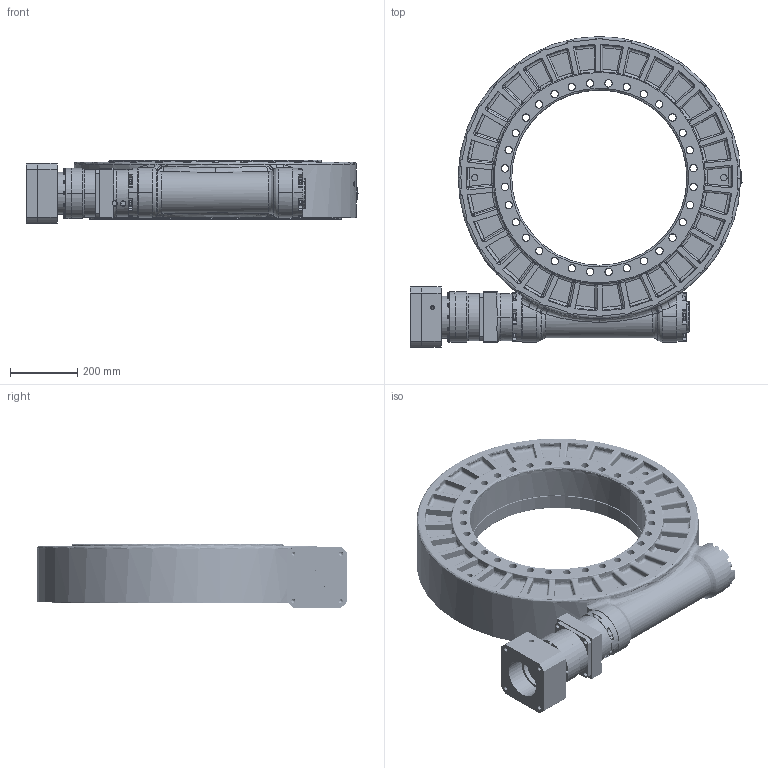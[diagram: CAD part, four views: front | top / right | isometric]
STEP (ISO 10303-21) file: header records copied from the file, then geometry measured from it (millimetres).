
FILE_DESCRIPTION (( 'STEP AP214' ), '1' );
FILE_NAME ('415hp-WVRB140.STEP', '2022-05-18T02:54:34', ( 'Windows User' ), ( 'P R C' ), 'SwSTEP 2.0', 'SolidWorks 2020', '' );
FILE_SCHEMA (( 'AUTOMOTIVE_DESIGN' ));
Length unit declared in the file: millimetre
Products named in the file (19): 蚐噩M30; HC650HP01-01眊极; 蚐黑ZG3%8_2; HC650HP-02-01蟀极芧謫; 囀鞠褒M12X45; HC650HP-02-02偏心盖_1; HC650HP-02-04萇儂釱; WVRB140-L1-114.3-200-M12-42-116-LJB; HC650HP01-04囀揤裔; 670X620X25; 囀鞠褒M10X60; 68X50X12; HC650HP-02-05蟀粣杶; 33210; 800X750X25; HC650HP01-02-60怀堤粣; 415hp-WVRB140; HC650HP-02-03蹟恇裔; 囀鞠褒M10X30
Assembly tree (57 placements, depth 2):
  415hp-WVRB140
    HC650HP01-02-60怀堤粣
    HC650HP01-01眊极
    HC650HP01-04囀揤裔
    HC650HP-02-02偏心盖_1  x2
    HC650HP-02-01蟀极芧謫
    33210  x2
    HC650HP-02-03蹟恇裔  x2
    HC650HP-02-04萇儂釱
    800X750X25
    670X620X25
    68X50X12  x2
    囀鞠褒M12X45  x16
    囀鞠褒M10X30  x13
    HC650HP-02-05蟀粣杶
    囀鞠褒M10X60  x6
    蚐黑ZG3%8_2  x4
    蚐噩M30
    WVRB140-L1-114.3-200-M12-42-116-LJB
Bounding box: 988.76 x 925.43 x 188 mm (x, y, z)
Volume: 70108834 mm3; surface area: 4875139.2 mm2
Topology: 59 solids, 60 shells, 2905 faces, 7192 edges, 4562 vertices
Faces by surface type: cylinder 1192, plane 919, bspline 531, cone 230, torus 33
Entity records: 150735 total; most frequent: CARTESIAN_POINT 84770, ORIENTED_EDGE 9834, DIRECTION 7692, EDGE_CURVE 4917, VERTEX_POINT 3174, AXIS2_PLACEMENT_3D 3005, EDGE_LOOP 2373, UNCERTAINTY_MEASURE_WITH_UNIT 2021
